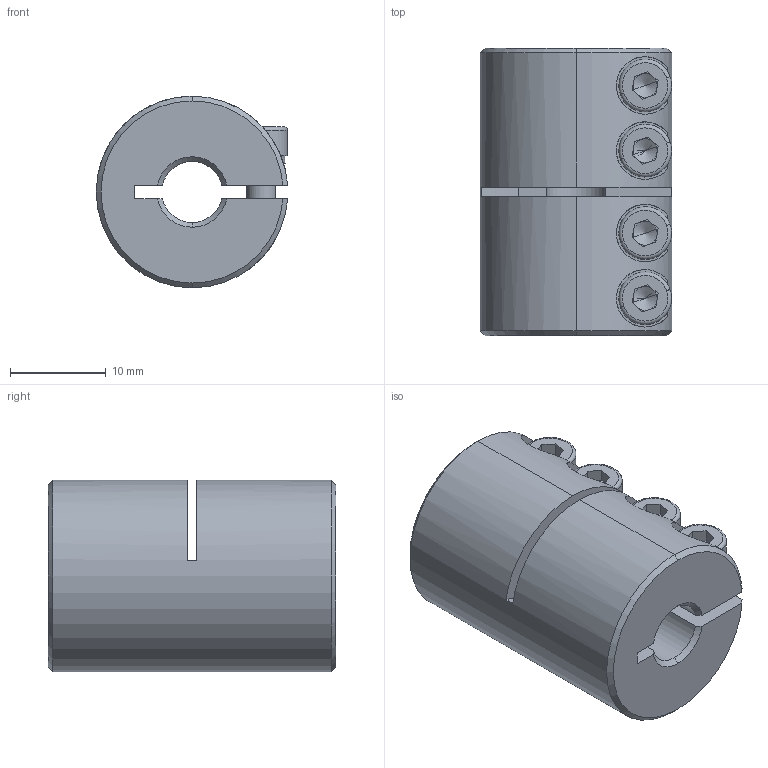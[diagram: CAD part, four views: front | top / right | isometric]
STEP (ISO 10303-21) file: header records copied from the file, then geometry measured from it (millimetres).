
FILE_DESCRIPTION (( 'STEP AP203' ), '1' );
FILE_NAME ('LL-B-D20L30-6.35-6.35.STEP', '2021-11-05T03:14:05', ( '' ), ( '' ), 'SwSTEP 2.0', 'SolidWorks 2018', '' );
FILE_SCHEMA (( 'CONFIG_CONTROL_DESIGN' ));
Length unit declared in the file: millimetre
Products named in the file (1): LL-B-D20L30-6.35-6.35
Bounding box: 19.98 x 30 x 20 mm (x, y, z)
Volume: 7787.4 mm3; surface area: 4536.4 mm2
Topology: 1 solids, 1 shells, 173 faces, 444 edges, 277 vertices
Faces by surface type: plane 87, cylinder 58, cone 20, torus 8
Entity records: 5650 total; most frequent: CARTESIAN_POINT 1319, DIRECTION 927, ORIENTED_EDGE 872, EDGE_CURVE 436, AXIS2_PLACEMENT_3D 357, VERTEX_POINT 277, LINE 213, VECTOR 213
